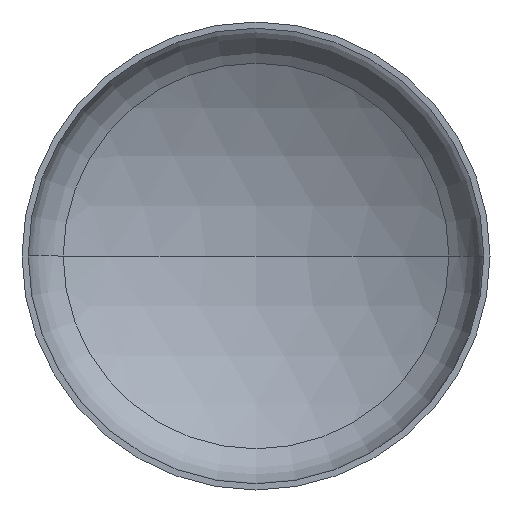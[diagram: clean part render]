
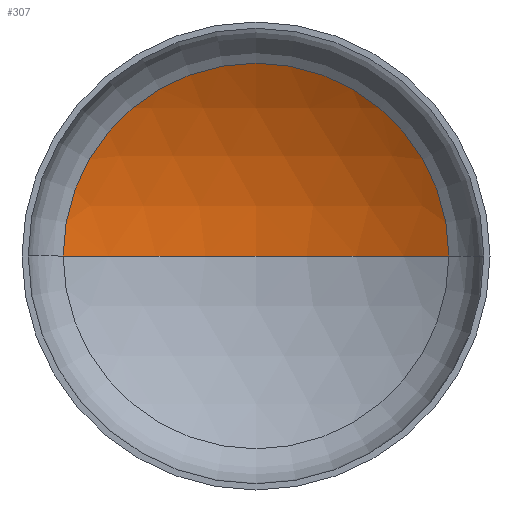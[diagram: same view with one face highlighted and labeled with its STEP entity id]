
A CAD part, front view. The second image highlights one B-rep face of the part: STEP entity #307.
In plain terms, the highlighted spherical face has radius 6000 mm.
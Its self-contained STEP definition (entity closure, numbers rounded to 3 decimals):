
#3 = CARTESIAN_POINT ( 'NONE',  ( -3089.783, 1090.08, 0. ) ) ;
#20 = CARTESIAN_POINT ( 'NONE',  ( 0., -4053.192, 0. ) ) ;
#23 = AXIS2_PLACEMENT_3D ( 'NONE', #20, #26, #390 ) ;
#26 = DIRECTION ( 'NONE',  ( 0., 0., -1. ) ) ;
#41 = CIRCLE ( 'NONE', #53, 6000. ) ;
#42 = VERTEX_POINT ( 'NONE', #280 ) ;
#46 = AXIS2_PLACEMENT_3D ( 'NONE', #261, #335, #355 ) ;
#53 = AXIS2_PLACEMENT_3D ( 'NONE', #176, #177, #179 ) ;
#57 = AXIS2_PLACEMENT_3D ( 'NONE', #195, #200, #192 ) ;
#95 = EDGE_CURVE ( 'NONE', #128, #150, #193, .T. ) ;
#97 = EDGE_CURVE ( 'NONE', #42, #128, #41, .T. ) ;
#103 = EDGE_CURVE ( 'NONE', #42, #150, #366, .T. ) ;
#111 = ORIENTED_EDGE ( 'NONE', *, *, #95, .T. ) ;
#128 = VERTEX_POINT ( 'NONE', #191 ) ;
#129 = ORIENTED_EDGE ( 'NONE', *, *, #97, .T. ) ;
#148 = EDGE_LOOP ( 'NONE', ( #166, #129, #111 ) ) ;
#150 = VERTEX_POINT ( 'NONE', #3 ) ;
#166 = ORIENTED_EDGE ( 'NONE', *, *, #103, .F. ) ;
#176 = CARTESIAN_POINT ( 'NONE',  ( 0., -4053.192, 0. ) ) ;
#177 = DIRECTION ( 'NONE',  ( 0., 0., -1. ) ) ;
#179 = DIRECTION ( 'NONE',  ( -1., 0., 0. ) ) ;
#191 = CARTESIAN_POINT ( 'NONE',  ( 3089.783, 1090.08, 0. ) ) ;
#192 = DIRECTION ( 'NONE',  ( 1., 0., 0. ) ) ;
#193 = CIRCLE ( 'NONE', #57, 3089.783 ) ;
#195 = CARTESIAN_POINT ( 'NONE',  ( 0., 1090.08, 0. ) ) ;
#200 = DIRECTION ( 'NONE',  ( 0., -1., 0. ) ) ;
#230 = FACE_OUTER_BOUND ( 'NONE', #148, .T. ) ;
#261 = CARTESIAN_POINT ( 'NONE',  ( 0., -4053.192, 0. ) ) ;
#280 = CARTESIAN_POINT ( 'NONE',  ( 0., 1946.808, 0. ) ) ;
#307 = ADVANCED_FACE ( 'NONE', ( #230 ), #403, .F. ) ;
#335 = DIRECTION ( 'NONE',  ( 0., 0., 1. ) ) ;
#355 = DIRECTION ( 'NONE',  ( 1., 0., 0. ) ) ;
#366 = CIRCLE ( 'NONE', #46, 6000. ) ;
#390 = DIRECTION ( 'NONE',  ( -1., 0., 0. ) ) ;
#403 = SPHERICAL_SURFACE ( 'NONE', #23, 6000. ) ;
